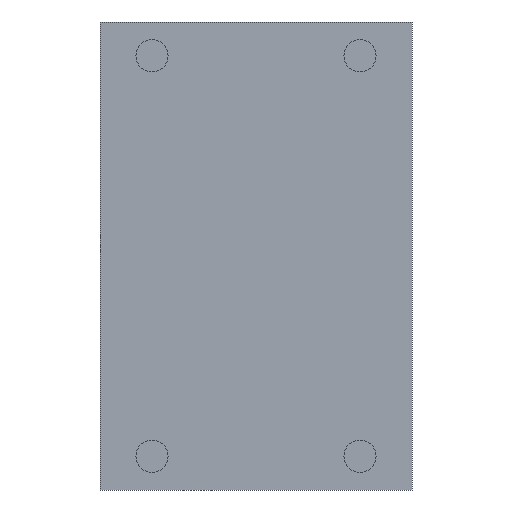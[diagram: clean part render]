
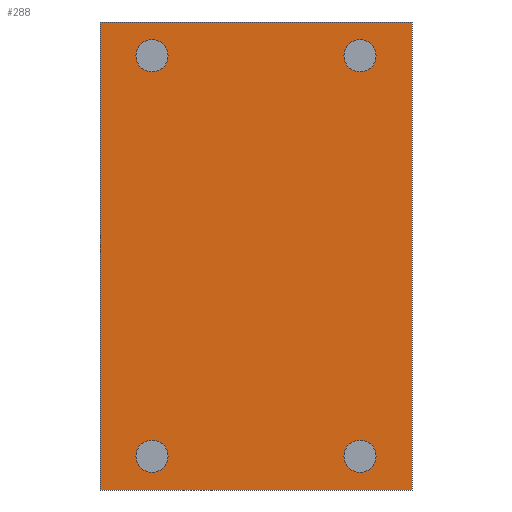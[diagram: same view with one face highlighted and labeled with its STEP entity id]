
A CAD part, front view. The second image highlights one B-rep face of the part: STEP entity #288.
In plain terms, the highlighted planar face has unit normal (0, -1, 0).
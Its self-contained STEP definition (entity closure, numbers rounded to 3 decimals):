
#1=CARTESIAN_POINT('',(20.,0.,38.5));
#2=DIRECTION('',(0.,1.,0.));
#3=DIRECTION('',(-1.,0.,0.));
#4=AXIS2_PLACEMENT_3D('',#1,#2,#3);
#6=CARTESIAN_POINT('',(20.,0.,38.5));
#7=DIRECTION('',(0.,1.,0.));
#8=DIRECTION('',(1.,0.,0.));
#9=AXIS2_PLACEMENT_3D('',#6,#7,#8);
#11=CARTESIAN_POINT('',(-20.,0.,38.5));
#12=DIRECTION('',(0.,-1.,0.));
#13=DIRECTION('',(1.,0.,0.));
#14=AXIS2_PLACEMENT_3D('',#11,#12,#13);
#16=CARTESIAN_POINT('',(-20.,0.,38.5));
#17=DIRECTION('',(0.,-1.,0.));
#18=DIRECTION('',(-1.,0.,0.));
#19=AXIS2_PLACEMENT_3D('',#16,#17,#18);
#21=CARTESIAN_POINT('',(-20.,0.,-38.5));
#22=DIRECTION('',(0.,1.,0.));
#23=DIRECTION('',(1.,0.,0.));
#24=AXIS2_PLACEMENT_3D('',#21,#22,#23);
#26=CARTESIAN_POINT('',(-20.,0.,-38.5));
#27=DIRECTION('',(0.,1.,0.));
#28=DIRECTION('',(-1.,0.,0.));
#29=AXIS2_PLACEMENT_3D('',#26,#27,#28);
#31=CARTESIAN_POINT('',(20.,0.,-38.5));
#32=DIRECTION('',(0.,-1.,0.));
#33=DIRECTION('',(-1.,0.,0.));
#34=AXIS2_PLACEMENT_3D('',#31,#32,#33);
#36=CARTESIAN_POINT('',(20.,0.,-38.5));
#37=DIRECTION('',(0.,-1.,0.));
#38=DIRECTION('',(1.,0.,0.));
#39=AXIS2_PLACEMENT_3D('',#36,#37,#38);
#131=CARTESIAN_POINT('',(-30.,0.,45.));
#133=DIRECTION('',(0.,0.,-1.));
#134=VECTOR('',#133,90.);
#135=CARTESIAN_POINT('',(-30.,0.,45.));
#136=LINE('',#135,#134);
#151=CARTESIAN_POINT('',(-30.,0.,-45.));
#153=DIRECTION('',(0.,0.,1.));
#154=VECTOR('',#153,90.);
#155=CARTESIAN_POINT('',(30.,0.,-45.));
#156=LINE('',#155,#154);
#171=CARTESIAN_POINT('',(30.,0.,45.));
#191=CARTESIAN_POINT('',(30.,0.,-45.));
#197=DIRECTION('',(1.,0.,0.));
#198=VECTOR('',#197,60.);
#199=CARTESIAN_POINT('',(-30.,0.,45.));
#200=LINE('',#199,#198);
#205=DIRECTION('',(1.,0.,0.));
#206=VECTOR('',#205,60.);
#207=CARTESIAN_POINT('',(-30.,0.,-45.));
#208=LINE('',#207,#206);
#210=VERTEX_POINT('',#191);
#215=CARTESIAN_POINT('',(16.9,0.,-38.5));
#216=CARTESIAN_POINT('',(23.1,0.,-38.5));
#217=VERTEX_POINT('',#215);
#218=VERTEX_POINT('',#216);
#220=VERTEX_POINT('',#151);
#225=CARTESIAN_POINT('',(-16.9,0.,-38.5));
#226=CARTESIAN_POINT('',(-23.1,0.,-38.5));
#227=VERTEX_POINT('',#225);
#228=VERTEX_POINT('',#226);
#230=VERTEX_POINT('',#171);
#235=CARTESIAN_POINT('',(16.9,0.,38.5));
#236=CARTESIAN_POINT('',(23.1,0.,38.5));
#237=VERTEX_POINT('',#235);
#238=VERTEX_POINT('',#236);
#240=VERTEX_POINT('',#131);
#245=CARTESIAN_POINT('',(-16.9,0.,38.5));
#246=CARTESIAN_POINT('',(-23.1,0.,38.5));
#247=VERTEX_POINT('',#245);
#248=VERTEX_POINT('',#246);
#249=CARTESIAN_POINT('',(0.,0.,0.));
#250=DIRECTION('',(0.,1.,0.));
#251=DIRECTION('',(1.,0.,0.));
#252=AXIS2_PLACEMENT_3D('',#249,#250,#251);
#253=PLANE('',#252);
#255=ORIENTED_EDGE('',*,*,#254,.F.);
#257=ORIENTED_EDGE('',*,*,#256,.T.);
#259=ORIENTED_EDGE('',*,*,#258,.F.);
#261=ORIENTED_EDGE('',*,*,#260,.F.);
#262=EDGE_LOOP('',(#255,#257,#259,#261));
#263=FACE_OUTER_BOUND('',#262,.F.);
#265=ORIENTED_EDGE('',*,*,#264,.F.);
#267=ORIENTED_EDGE('',*,*,#266,.F.);
#268=EDGE_LOOP('',(#265,#267));
#269=FACE_BOUND('',#268,.F.);
#271=ORIENTED_EDGE('',*,*,#270,.T.);
#273=ORIENTED_EDGE('',*,*,#272,.T.);
#274=EDGE_LOOP('',(#271,#273));
#275=FACE_BOUND('',#274,.F.);
#277=ORIENTED_EDGE('',*,*,#276,.F.);
#279=ORIENTED_EDGE('',*,*,#278,.F.);
#280=EDGE_LOOP('',(#277,#279));
#281=FACE_BOUND('',#280,.F.);
#283=ORIENTED_EDGE('',*,*,#282,.T.);
#285=ORIENTED_EDGE('',*,*,#284,.T.);
#286=EDGE_LOOP('',(#283,#285));
#287=FACE_BOUND('',#286,.F.);
#288=ADVANCED_FACE('',(#263,#269,#275,#281,#287),#253,.F.);
#5=CIRCLE('',#4,3.1);
#10=CIRCLE('',#9,3.1);
#15=CIRCLE('',#14,3.1);
#20=CIRCLE('',#19,3.1);
#25=CIRCLE('',#24,3.1);
#30=CIRCLE('',#29,3.1);
#35=CIRCLE('',#34,3.1);
#40=CIRCLE('',#39,3.1);
#254=EDGE_CURVE('',#240,#220,#136,.T.);
#256=EDGE_CURVE('',#240,#230,#200,.T.);
#258=EDGE_CURVE('',#210,#230,#156,.T.);
#260=EDGE_CURVE('',#220,#210,#208,.T.);
#264=EDGE_CURVE('',#237,#238,#5,.T.);
#266=EDGE_CURVE('',#238,#237,#10,.T.);
#270=EDGE_CURVE('',#247,#248,#15,.T.);
#272=EDGE_CURVE('',#248,#247,#20,.T.);
#276=EDGE_CURVE('',#227,#228,#25,.T.);
#278=EDGE_CURVE('',#228,#227,#30,.T.);
#282=EDGE_CURVE('',#217,#218,#35,.T.);
#284=EDGE_CURVE('',#218,#217,#40,.T.);
